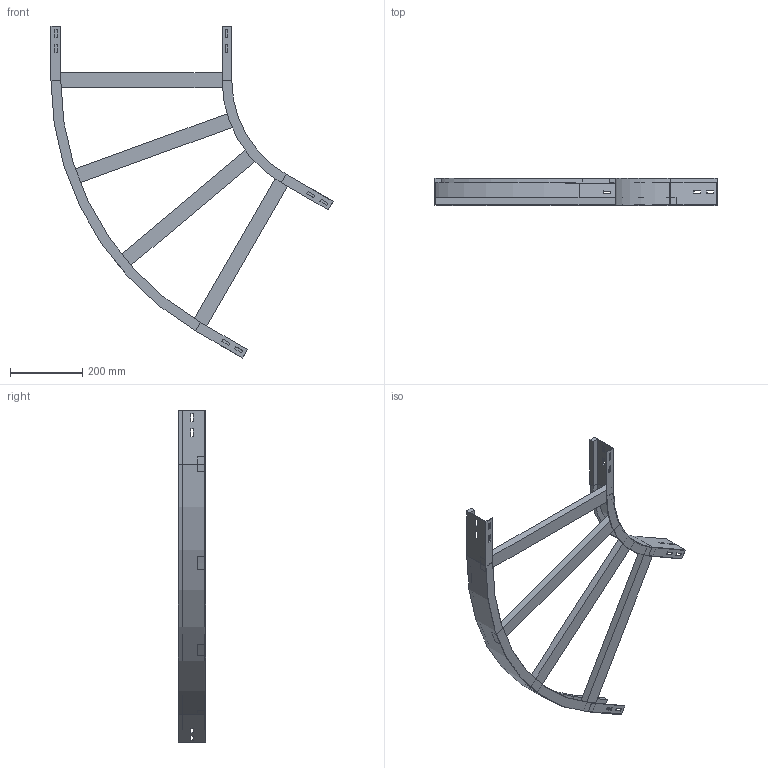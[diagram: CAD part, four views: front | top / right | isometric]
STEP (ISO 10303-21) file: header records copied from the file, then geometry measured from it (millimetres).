
FILE_DESCRIPTION (( 'STEP AP214' ), '1' );
FILE_NAME ('A2_13B3C500.step', '2025-02-21T15:21:16', ( '' ), ( '' ), 'SwSTEP 2.0', 'SolidWorks 2023', '' );
FILE_SCHEMA (( 'AUTOMOTIVE_DESIGN' ));
Length unit declared in the file: millimetre
Products named in the file (4): A2_LONGH.INTERNO 60°_H75_R300; A2_LONGH.ESTERNO 60°_H75_R300+500; TRAVERSINO_500; A2_13B3C500
Assembly tree (6 placements, depth 2):
  A2_13B3C500
    A2_LONGH.INTERNO 60°_H75_R300
    A2_LONGH.ESTERNO 60°_H75_R300+500
    TRAVERSINO_500  x4
Bounding box: 779.9 x 75 x 917.82 mm (x, y, z)
Volume: 2288863.6 mm3; surface area: 658492.5 mm2
Topology: 6 solids, 6 shells, 140 faces, 352 edges, 224 vertices
Faces by surface type: plane 132, cylinder 8
Entity records: 3829 total; most frequent: CARTESIAN_POINT 647, ORIENTED_EDGE 632, DIRECTION 594, EDGE_CURVE 316, LINE 300, VECTOR 300, VERTEX_POINT 200, EDGE_LOOP 154
